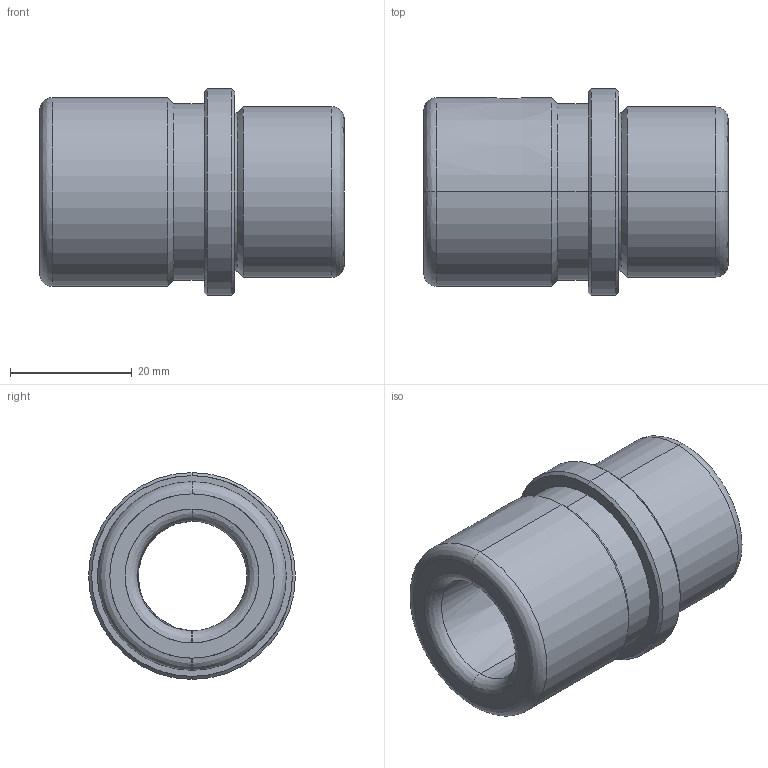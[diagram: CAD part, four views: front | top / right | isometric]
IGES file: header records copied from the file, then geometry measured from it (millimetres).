
Start section: START RECORD GO HERE.
Global section: file name: FAMO-SF1-C18 x 50.igs; native system: DASSAULT SYSTEMES CATIA V5 R20 - www.3ds.com; preprocessor: CATIA Version 5 Release 20 ; author: Utente; organization: NB04-ASUS; date: 20210106.175219; units: millimetre
Bounding box: 50 x 34 x 34 mm (x, y, z)
Surface area: 8958.6 mm2 (no closed solid volume)
Topology: 0 solids, 0 shells, 37 faces, 234 edges, 234 vertices
Faces by surface type: revolution 32, plane 5
